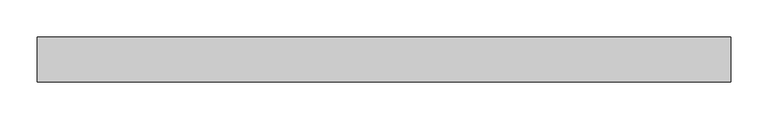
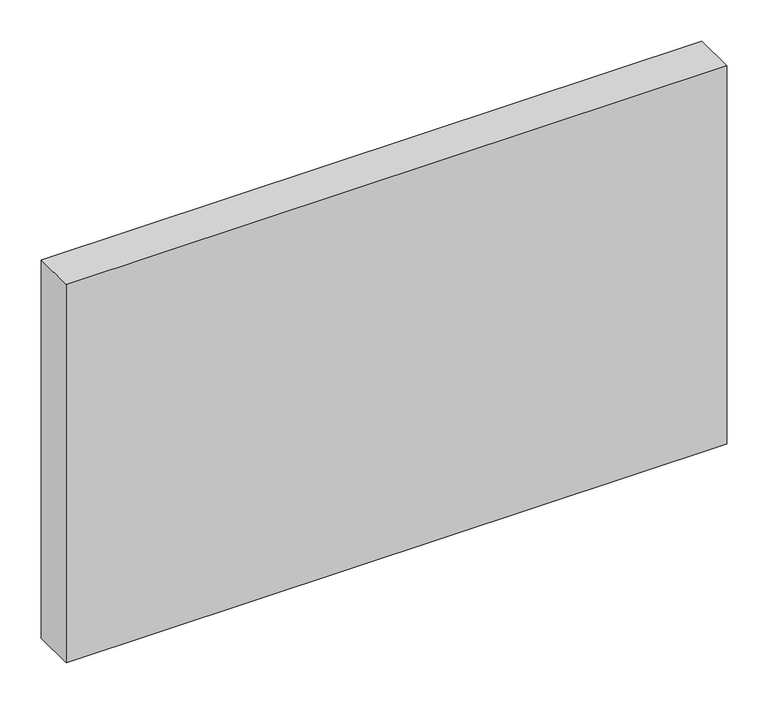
"""IFC4 building model written with IfcOpenShell, lengths in millimetres: plate geometry, Системная панель : Алюкобонд серый."""

from ifc_helpers import new_model, si_unit, origin, origin_with_axes, place, context, project, spatial, polyline, outline, extrude, source, transform, mapped, element, save


def plate_39c1e974(model_context):
    return source(origin(), model_context, "Body", "SweptSolid", [
        extrude(outline(polyline([(462.25, -10.5), (-462.25, -10.5), (-462.25, 49.5), (462.25, 49.5), (462.25, -10.5)])), origin_with_axes(), (0.0, 0.0, 1.0), 560.0),
    ])


if __name__ == "__main__":
    model = new_model("IFC4")
    model_context = context("Model", 3, world=origin())
    ifc_project = project(units=[si_unit("LENGTHUNIT", "METRE", prefix="MILLI")], contexts=[model_context])
    site = spatial("IfcSite", under=ifc_project)
    building = spatial("IfcBuilding", under=site)
    placement = place(None, origin())
    plate_shape = plate_39c1e974(model_context)
    element("IfcPlate", 1, ObjectType="Системная панель : Алюкобонд серый", at=placement, inside=building, context=model_context, shape_type="MappedRepresentation", body=[
        mapped(plate_shape, transform((0.0, 0.0, 0.0), x_axis=(1.0, 0.0, 0.0), y_axis=(0.0, 1.0, 0.0), z_axis=(0.0, 0.0, 1.0))),
    ])
    save(model, "model.ifc")
